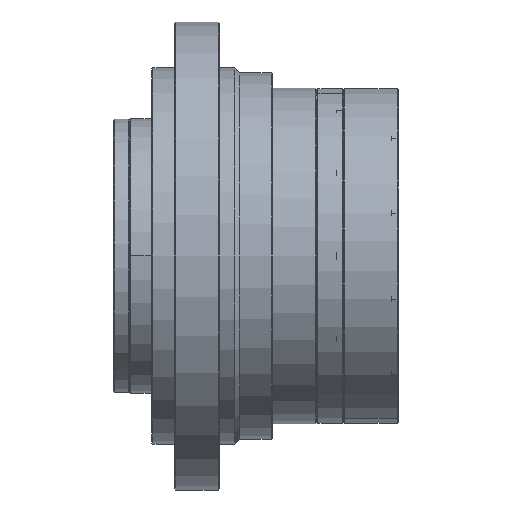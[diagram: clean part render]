
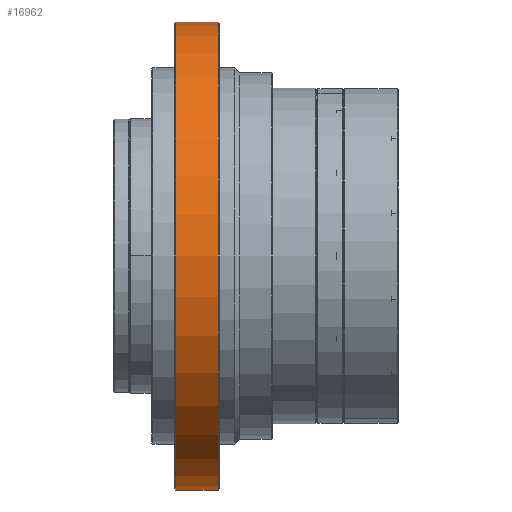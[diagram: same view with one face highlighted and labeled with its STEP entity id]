
A CAD part, front view. The second image highlights one B-rep face of the part: STEP entity #16962.
In plain terms, the highlighted cylindrical face has radius 115 mm (diameter 230 mm), a partial arc.
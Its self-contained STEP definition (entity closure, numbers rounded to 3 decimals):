
#1042 = VERTEX_POINT ( 'NONE', #60700 ) ;
#1827 = VERTEX_POINT ( 'NONE', #38375 ) ;
#3381 = CARTESIAN_POINT ( 'NONE',  ( 32.6, 0., 0. ) ) ;
#6918 = CIRCLE ( 'NONE', #50157, 115. ) ;
#7183 = CARTESIAN_POINT ( 'NONE',  ( 0., 0., 0. ) ) ;
#7280 = CARTESIAN_POINT ( 'NONE',  ( 11.6, 0., -115. ) ) ;
#8766 = AXIS2_PLACEMENT_3D ( 'NONE', #7183, #120111, #45320 ) ;
#9051 = EDGE_LOOP ( 'NONE', ( #68255, #120366, #98133, #42446 ) ) ;
#13903 = DIRECTION ( 'NONE',  ( -1., 0., 0. ) ) ;
#16962 = ADVANCED_FACE ( 'NONE', ( #92209 ), #72559, .T. ) ;
#21447 = DIRECTION ( 'NONE',  ( -1., 0., 0. ) ) ;
#21694 = VERTEX_POINT ( 'NONE', #99986 ) ;
#23245 = CARTESIAN_POINT ( 'NONE',  ( 0., 0., -115. ) ) ;
#30533 = DIRECTION ( 'NONE',  ( 0., 0., 1. ) ) ;
#33029 = CARTESIAN_POINT ( 'NONE',  ( 0., 0., 115. ) ) ;
#37289 = VECTOR ( 'NONE', #21447, 1000. ) ;
#38375 = CARTESIAN_POINT ( 'NONE',  ( 32.6, 0., -115. ) ) ;
#42446 = ORIENTED_EDGE ( 'NONE', *, *, #75780, .F. ) ;
#45318 = EDGE_CURVE ( 'NONE', #1827, #75286, #116947, .T. ) ;
#45320 = DIRECTION ( 'NONE',  ( 0., 0., 1. ) ) ;
#50157 = AXIS2_PLACEMENT_3D ( 'NONE', #96935, #87619, #108660 ) ;
#55729 = AXIS2_PLACEMENT_3D ( 'NONE', #3381, #107606, #30533 ) ;
#56271 = EDGE_CURVE ( 'NONE', #21694, #1042, #96618, .T. ) ;
#60700 = CARTESIAN_POINT ( 'NONE',  ( 11.6, 0., 115. ) ) ;
#68255 = ORIENTED_EDGE ( 'NONE', *, *, #45318, .F. ) ;
#72559 = CYLINDRICAL_SURFACE ( 'NONE', #8766, 115. ) ;
#74229 = EDGE_CURVE ( 'NONE', #1827, #21694, #103112, .T. ) ;
#75286 = VERTEX_POINT ( 'NONE', #7280 ) ;
#75780 = EDGE_CURVE ( 'NONE', #75286, #1042, #6918, .T. ) ;
#87619 = DIRECTION ( 'NONE',  ( -1., 0., 0. ) ) ;
#92209 = FACE_OUTER_BOUND ( 'NONE', #9051, .T. ) ;
#96618 = LINE ( 'NONE', #33029, #37289 ) ;
#96935 = CARTESIAN_POINT ( 'NONE',  ( 11.6, 0., 0. ) ) ;
#98133 = ORIENTED_EDGE ( 'NONE', *, *, #56271, .T. ) ;
#99986 = CARTESIAN_POINT ( 'NONE',  ( 32.6, 0., 115. ) ) ;
#103112 = CIRCLE ( 'NONE', #55729, 115. ) ;
#107606 = DIRECTION ( 'NONE',  ( -1., 0., 0. ) ) ;
#108660 = DIRECTION ( 'NONE',  ( 0., 0., 1. ) ) ;
#113393 = VECTOR ( 'NONE', #13903, 1000. ) ;
#116947 = LINE ( 'NONE', #23245, #113393 ) ;
#120111 = DIRECTION ( 'NONE',  ( -1., 0., 0. ) ) ;
#120366 = ORIENTED_EDGE ( 'NONE', *, *, #74229, .T. ) ;
